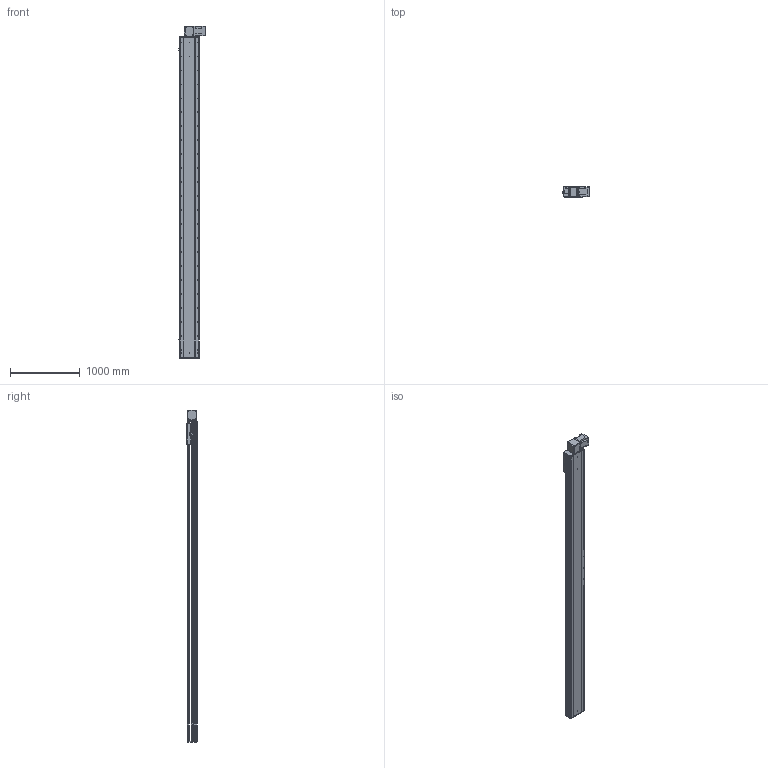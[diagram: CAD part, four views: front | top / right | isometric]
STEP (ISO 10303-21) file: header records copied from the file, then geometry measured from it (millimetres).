
FILE_DESCRIPTION (( 'STEP AP214' ), '1' );
FILE_NAME ('RTB28S-XX-4150-BL-M100-XX-C4.STEP', '2025-12-22T02:44:23', ( '' ), ( '' ), 'SwSTEP 2.0', 'SolidWorks 2018', '' );
FILE_SCHEMA (( 'AUTOMOTIVE_DESIGN' ));
Length unit declared in the file: millimetre
Products named in the file (4): RTB28S-XX-4150-BL-M100-XX-C4; RTB28S-GY-008^RTB28S-XX-XX-BL-M100-XX-C4; RTB28S-GY-011^RTB28S-XX-XX-BL-M100-XX-C4; RTB28S-GY-004^RTB28S-XX-XX-BL-M100-XX-C4
Assembly tree (3 placements, depth 2):
  RTB28S-XX-4150-BL-M100-XX-C4
    RTB28S-GY-011^RTB28S-XX-XX-BL-M100-XX-C4
    RTB28S-GY-004^RTB28S-XX-XX-BL-M100-XX-C4
    RTB28S-GY-008^RTB28S-XX-XX-BL-M100-XX-C4
Bounding box: 380.7 x 145 x 4757 mm (x, y, z)
Volume: 79214377.1 mm3; surface area: 7339304.4 mm2
Topology: 3 solids, 4 shells, 948 faces, 2568 edges, 1648 vertices
Faces by surface type: cylinder 487, plane 377, cone 80, torus 4
Entity records: 37289 total; most frequent: CARTESIAN_POINT 7402, DIRECTION 5478, ORIENTED_EDGE 5072, EDGE_CURVE 2536, AXIS2_PLACEMENT_3D 2044, VERTEX_POINT 1648, VECTOR 1390, LINE 1390
